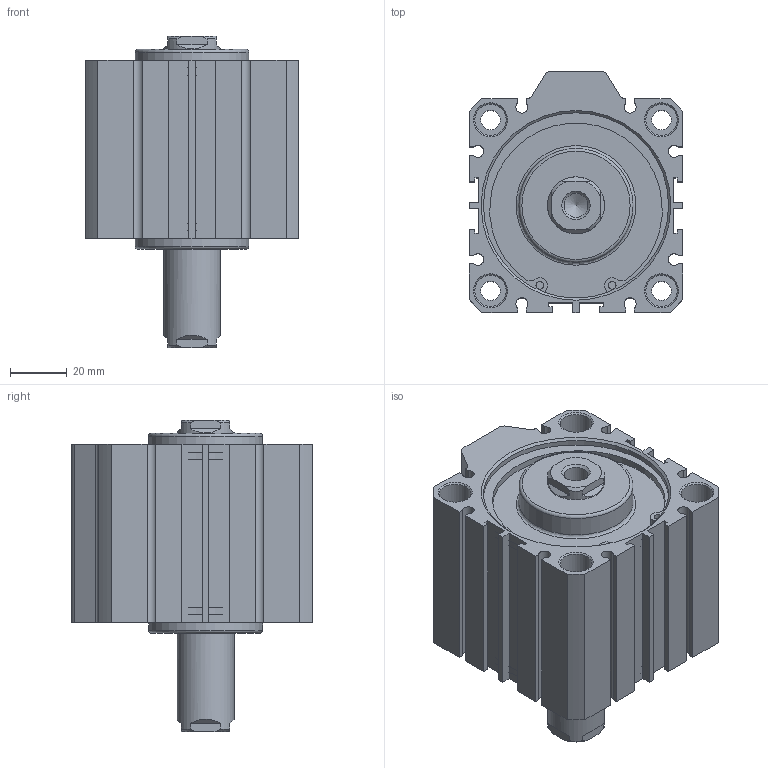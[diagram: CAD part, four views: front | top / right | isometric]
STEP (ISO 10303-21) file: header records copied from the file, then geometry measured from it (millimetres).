
FILE_DESCRIPTION((''),'2;1');
FILE_NAME('I:\3D電子目錄\氣缸\JDD\JDD\JDD63\JDD63x30.stp','2007-02-08T11:31:52',('662F206'),(''),'Autodesk Inventor 10','Autodesk Inventor 10','');
FILE_SCHEMA(('AUTOMOTIVE_DESIGN { 1 0 10303 214 1 1 1 1 }'));
Length unit declared in the file: millimetre
Products named in the file (3): JDD63; R 形環 65
Assembly tree (3 placements, depth 2):
  JDD63
    JDD63
    R 形環 65  x2
Bounding box: 75 x 84.5 x 109.5 mm (x, y, z)
Volume: 331015.3 mm3; surface area: 58659.4 mm2
Topology: 3 solids, 3 shells, 204 faces, 514 edges, 338 vertices
Faces by surface type: plane 116, cylinder 56, cone 24, bspline 6, torus 2
Full cylindrical faces by diameter (mm): 2.7 x4, 3 x2, 6.8 x4, 11 x8, 20 x2, 40 x2, 65 x4, 68 x2
Entity records: 5651 total; most frequent: CARTESIAN_POINT 1118, DIRECTION 936, ORIENTED_EDGE 848, EDGE_CURVE 424, AXIS2_PLACEMENT_3D 336, VERTEX_POINT 308, EDGE_LOOP 276, VECTOR 264
